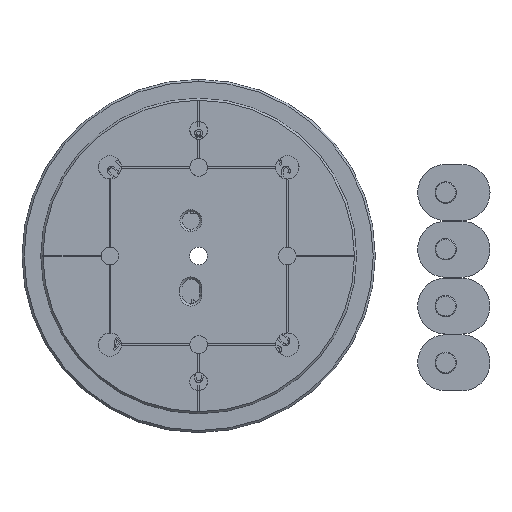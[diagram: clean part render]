
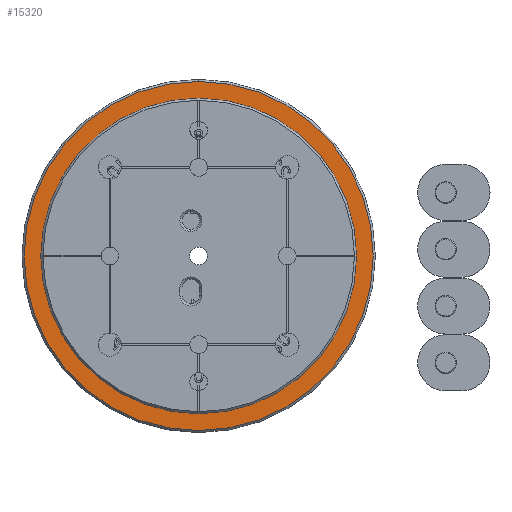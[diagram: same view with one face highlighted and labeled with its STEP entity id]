
A CAD part, front view. The second image highlights one B-rep face of the part: STEP entity #15320.
In plain terms, the highlighted planar face has unit normal (0, -1, 0).
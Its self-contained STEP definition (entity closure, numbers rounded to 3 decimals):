
#1710 = CARTESIAN_POINT ( 'NONE',  ( 0., 2.7, 0. ) ) ;
#1809 = VERTEX_POINT ( 'NONE', #31968 ) ;
#5394 = CARTESIAN_POINT ( 'NONE',  ( 0., 2.7, 0. ) ) ;
#5754 = VERTEX_POINT ( 'NONE', #17377 ) ;
#6654 = ORIENTED_EDGE ( 'NONE', *, *, #39727, .T. ) ;
#6853 = DIRECTION ( 'NONE',  ( 0., 0., -1. ) ) ;
#7352 = CIRCLE ( 'NONE', #12447, 24.6 ) ;
#9609 = VERTEX_POINT ( 'NONE', #22009 ) ;
#9781 = EDGE_LOOP ( 'NONE', ( #6654, #48982 ) ) ;
#10320 = EDGE_LOOP ( 'NONE', ( #17644, #37988 ) ) ;
#10372 = CARTESIAN_POINT ( 'NONE',  ( 0., 2.7, 0. ) ) ;
#12270 = CIRCLE ( 'NONE', #27639, 22.25 ) ;
#12447 = AXIS2_PLACEMENT_3D ( 'NONE', #60343, #41128, #59699 ) ;
#15320 = ADVANCED_FACE ( 'NONE', ( #25759, #54261 ), #25116, .T. ) ;
#15328 = EDGE_CURVE ( 'NONE', #5754, #60173, #12270, .T. ) ;
#15616 = DIRECTION ( 'NONE',  ( 0., -1., 0. ) ) ;
#15800 = DIRECTION ( 'NONE',  ( 0., 0., -1. ) ) ;
#15824 = CARTESIAN_POINT ( 'NONE',  ( 0., 2.7, 22.25 ) ) ;
#17377 = CARTESIAN_POINT ( 'NONE',  ( 0., 2.7, -22.25 ) ) ;
#17644 = ORIENTED_EDGE ( 'NONE', *, *, #15328, .F. ) ;
#19007 = EDGE_CURVE ( 'NONE', #1809, #9609, #7352, .T. ) ;
#20613 = DIRECTION ( 'NONE',  ( 0., -1., 0. ) ) ;
#20939 = CARTESIAN_POINT ( 'NONE',  ( 0., 2.7, 0. ) ) ;
#22009 = CARTESIAN_POINT ( 'NONE',  ( 0., 2.7, 24.6 ) ) ;
#25116 = PLANE ( 'NONE',  #60384 ) ;
#25759 = FACE_OUTER_BOUND ( 'NONE', #9781, .T. ) ;
#27639 = AXIS2_PLACEMENT_3D ( 'NONE', #20939, #59372, #15800 ) ;
#28082 = AXIS2_PLACEMENT_3D ( 'NONE', #5394, #15616, #59820 ) ;
#29385 = CIRCLE ( 'NONE', #34479, 24.6 ) ;
#30844 = EDGE_CURVE ( 'NONE', #60173, #5754, #34126, .T. ) ;
#31968 = CARTESIAN_POINT ( 'NONE',  ( 0., 2.7, -24.6 ) ) ;
#34126 = CIRCLE ( 'NONE', #28082, 22.25 ) ;
#34479 = AXIS2_PLACEMENT_3D ( 'NONE', #1710, #50420, #55178 ) ;
#37988 = ORIENTED_EDGE ( 'NONE', *, *, #30844, .F. ) ;
#39727 = EDGE_CURVE ( 'NONE', #9609, #1809, #29385, .T. ) ;
#41128 = DIRECTION ( 'NONE',  ( 0., -1., 0. ) ) ;
#48982 = ORIENTED_EDGE ( 'NONE', *, *, #19007, .T. ) ;
#50420 = DIRECTION ( 'NONE',  ( 0., -1., 0. ) ) ;
#54261 = FACE_BOUND ( 'NONE', #10320, .T. ) ;
#55178 = DIRECTION ( 'NONE',  ( 0., 0., -1. ) ) ;
#59372 = DIRECTION ( 'NONE',  ( 0., -1., 0. ) ) ;
#59699 = DIRECTION ( 'NONE',  ( 0., 0., -1. ) ) ;
#59820 = DIRECTION ( 'NONE',  ( 0., 0., -1. ) ) ;
#60173 = VERTEX_POINT ( 'NONE', #15824 ) ;
#60343 = CARTESIAN_POINT ( 'NONE',  ( 0., 2.7, 0. ) ) ;
#60384 = AXIS2_PLACEMENT_3D ( 'NONE', #10372, #20613, #6853 ) ;
